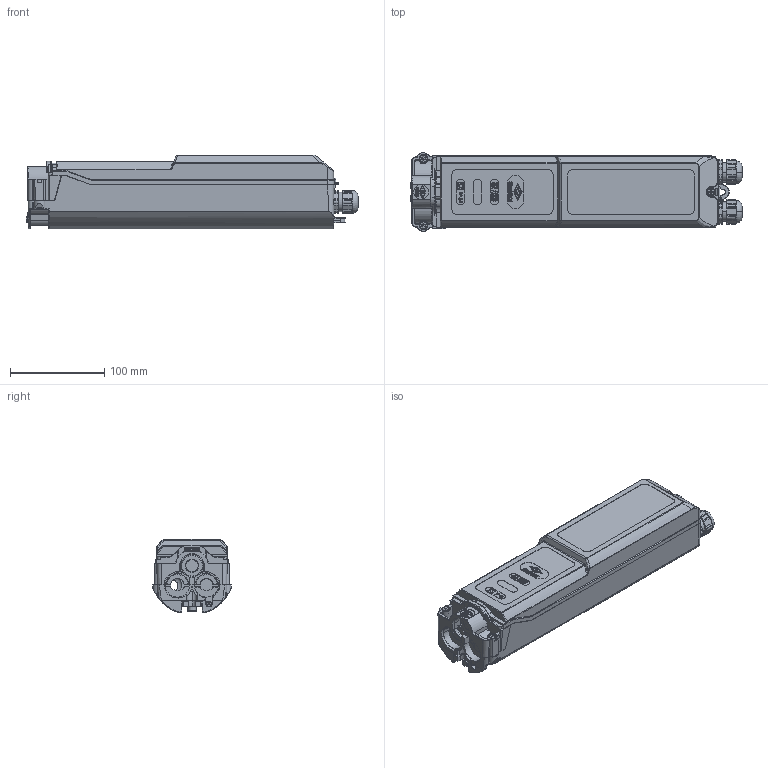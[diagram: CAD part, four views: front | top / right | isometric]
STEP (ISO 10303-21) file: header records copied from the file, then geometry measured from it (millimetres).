
FILE_DESCRIPTION (( 'STEP AP203' ), '1' );
FILE_NAME ('3D - HSW2505-M20 Außenkontur.STEP', '2019-06-28T09:16:56', ( '' ), ( '' ), 'SwSTEP 2.0', 'SolidWorks 2013', '' );
FILE_SCHEMA (( 'CONFIG_CONTROL_DESIGN' ));
Length unit declared in the file: millimetre
Products named in the file (1): 3D - HSW2505-M20 Außenkontur
Bounding box: 353.13 x 83.5 x 78.61 mm (x, y, z)
Surface area: 135789.5 mm2 (no closed solid volume)
Topology: 0 solids, 27 shells, 1295 faces, 4577 edges, 3225 vertices
Faces by surface type: plane 579, cylinder 381, bspline 145, cone 95, torus 85, sphere 10
Entity records: 59723 total; most frequent: CARTESIAN_POINT 22818, ORIENTED_EDGE 7494, DIRECTION 6955, EDGE_CURVE 4567, VERTEX_POINT 3225, VECTOR 2627, LINE 2627, AXIS2_PLACEMENT_3D 2164
